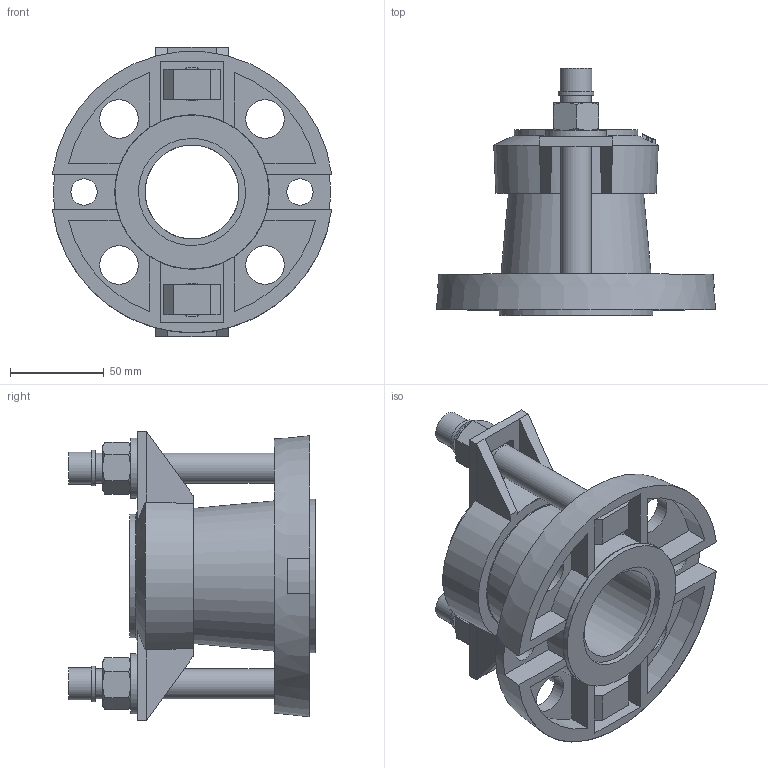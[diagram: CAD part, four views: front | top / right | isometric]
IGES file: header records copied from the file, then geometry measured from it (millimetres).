
Start section: SolidWorks IGES file using analytic representation for surfaces
Global section: file name: \\avksan2\techshare\PBM outline export from Enovia\O_623_10_DN040-50mm_X1XXXXX_REV01.igs; native system: SolidWorks 2019; preprocessor: SolidWorks 2019; author: pbm; date: 200417.102016; units: millimetre
Bounding box: 148.79 x 131.5 x 154 mm (x, y, z)
Surface area: 117989.8 mm2 (no closed solid volume)
Topology: 0 solids, 0 shells, 233 faces, 1114 edges, 1077 vertices
Faces by surface type: bspline 145, revolution 88
